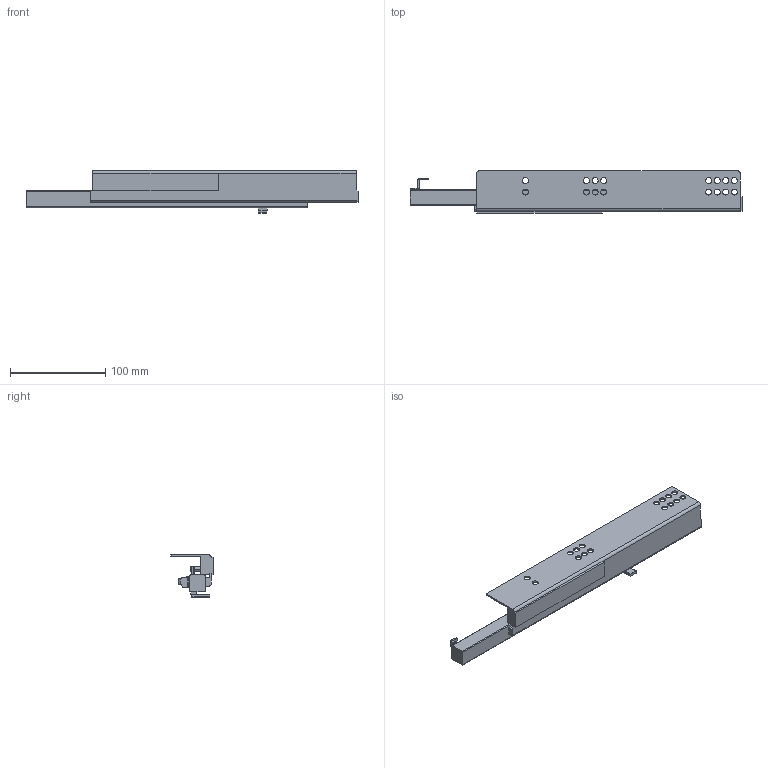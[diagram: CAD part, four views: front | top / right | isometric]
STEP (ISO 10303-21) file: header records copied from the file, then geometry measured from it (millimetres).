
FILE_DESCRIPTION (( 'STEP AP203' ), '1' );
FILE_NAME ('GG10350H-L-DTC3D-close.STEP', '2021-07-02T00:55:49', ( 'df' ), ( 'Microsoft' ), 'SwSTEP 2.0', 'SolidWorks 2018', '' );
FILE_SCHEMA (( 'CONFIG_CONTROL_DESIGN' ));
Length unit declared in the file: millimetre
Products named in the file (1): GG10350H-L-DTC3D-close
Bounding box: 348 x 44.1 x 44.73 mm (x, y, z)
Volume: 166363.9 mm3; surface area: 62171.3 mm2
Topology: 1 solids, 1 shells, 164 faces, 459 edges, 297 vertices
Faces by surface type: cylinder 80, plane 76, bspline 4, cone 2, sphere 2
Entity records: 5482 total; most frequent: CARTESIAN_POINT 1085, ORIENTED_EDGE 914, DIRECTION 899, EDGE_CURVE 457, AXIS2_PLACEMENT_3D 311, VERTEX_POINT 297, LINE 277, VECTOR 277
